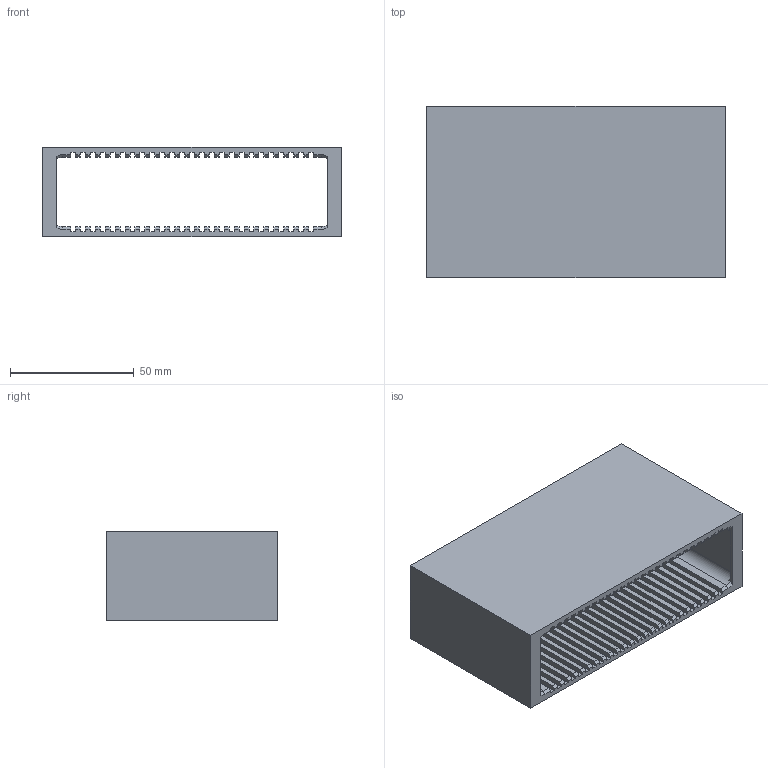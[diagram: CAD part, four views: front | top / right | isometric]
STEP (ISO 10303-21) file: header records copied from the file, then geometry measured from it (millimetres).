
FILE_DESCRIPTION(/* description */ (''),/* implementation_level */ '2;1');
FILE_NAME(/* name */ 'ANKER 10-Port Charger v16.step',/* time_stamp */ '2024-02-11T13:10:47+01:00',/* author */ (''),/* organization */ (''),/* preprocessor_version */ 'ST-DEVELOPER v20',/* originating_system */ 'Autodesk Translation Framework v12.14.0.127',/* authorisation */ '');
FILE_SCHEMA (('AUTOMOTIVE_DESIGN { 1 0 10303 214 3 1 1 }'));
Length unit declared in the file: millimetre
Products named in the file (1): ANKER 10-Port Charger
Bounding box: 120.4 x 69 x 36 mm (x, y, z)
Volume: 68826.8 mm3; surface area: 56669.7 mm2
Topology: 1 solids, 1 shells, 284 faces, 832 edges, 552 vertices
Faces by surface type: plane 270, cone 8, cylinder 6
Full cylindrical faces by diameter (mm): 3 x2
Entity records: 9265 total; most frequent: CARTESIAN_POINT 1685, ORIENTED_EDGE 1664, DIRECTION 1418, EDGE_CURVE 832, LINE 800, VECTOR 800, VERTEX_POINT 552, AXIS2_PLACEMENT_3D 309
